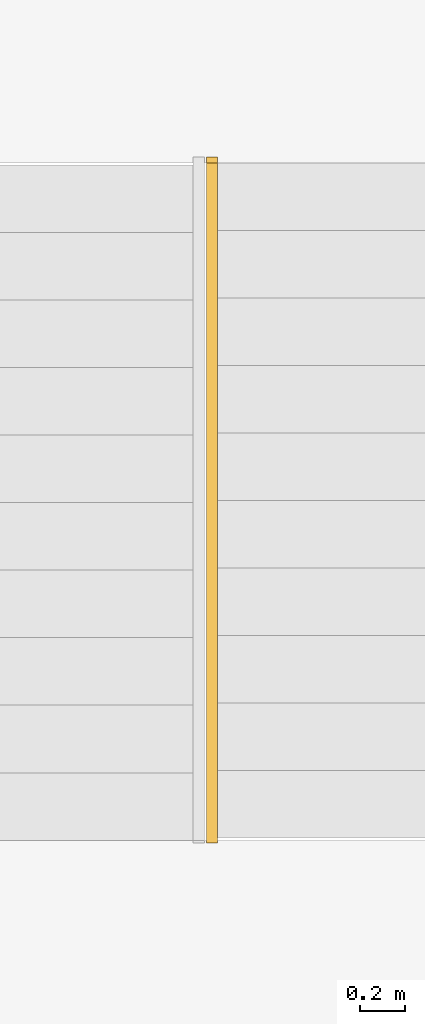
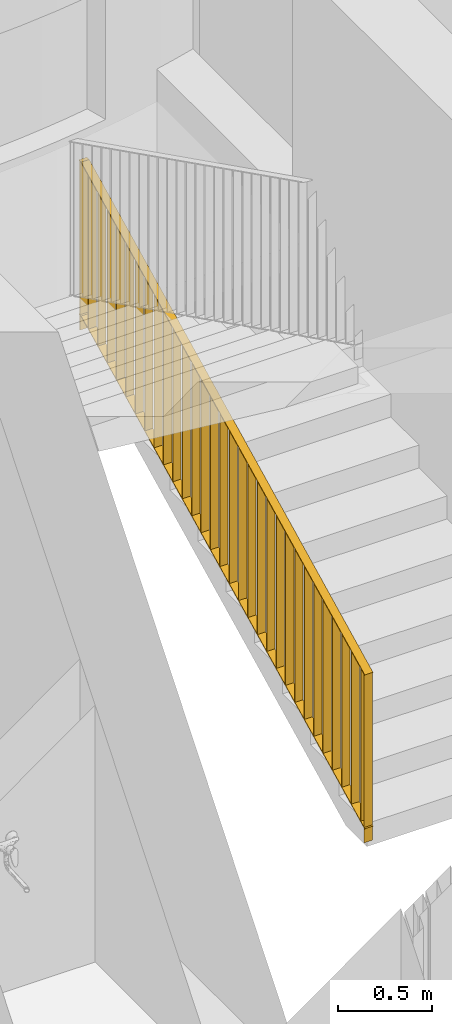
# One storey, part 20 of 48: 1 railing, 1 element without a shape of its own.
"""IFC2X3 building model written with IfcOpenShell, lengths in millimetres."""

from ifc_helpers import new_model, entity, si_unit, converted_unit, derived_unit, direction, frame, origin, place, context, subcontext, project, spatial, faceted_brep, material, element, aggregate, save


model = new_model("IFC2X3")

# Units and contexts
model_context = context("Model", 3, precision=0.01, world=origin(), true_north=direction((6.12303176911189e-17, 1.0)))
body_context = subcontext(model_context, "Body", "Model", "MODEL_VIEW")
ifc_project = project(units=[si_unit("LENGTHUNIT", "METRE", prefix="MILLI"), si_unit("AREAUNIT", "SQUARE_METRE"), si_unit("VOLUMEUNIT", "CUBIC_METRE"), converted_unit("PLANEANGLEUNIT", "DEGREE", entity("IfcRatioMeasure", 0.0174532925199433), si_unit("PLANEANGLEUNIT", "RADIAN"), dimensions=[0, 0, 0, 0, 0, 0, 0]), si_unit("MASSUNIT", "GRAM", prefix="KILO"), derived_unit("MASSDENSITYUNIT", [(si_unit("MASSUNIT", "GRAM", prefix="KILO"), 1), (si_unit("LENGTHUNIT", "METRE"), -3)]), si_unit("TIMEUNIT", "SECOND"), si_unit("FREQUENCYUNIT", "HERTZ"), si_unit("THERMODYNAMICTEMPERATUREUNIT", "DEGREE_CELSIUS"), derived_unit("THERMALTRANSMITTANCEUNIT", [(si_unit("MASSUNIT", "GRAM", prefix="KILO"), 1), (si_unit("THERMODYNAMICTEMPERATUREUNIT", "KELVIN"), -1), (si_unit("TIMEUNIT", "SECOND"), -3)]), derived_unit("VOLUMETRICFLOWRATEUNIT", [(si_unit("LENGTHUNIT", "METRE"), 3), (si_unit("TIMEUNIT", "SECOND"), -1)]), si_unit("ELECTRICCURRENTUNIT", "AMPERE"), si_unit("ELECTRICVOLTAGEUNIT", "VOLT"), si_unit("POWERUNIT", "WATT"), si_unit("FORCEUNIT", "NEWTON", prefix="KILO"), si_unit("ILLUMINANCEUNIT", "LUX"), si_unit("LUMINOUSFLUXUNIT", "LUMEN"), si_unit("LUMINOUSINTENSITYUNIT", "CANDELA"), derived_unit("USERDEFINED", [(si_unit("MASSUNIT", "GRAM", prefix="KILO"), -1), (si_unit("LENGTHUNIT", "METRE"), -2), (si_unit("TIMEUNIT", "SECOND"), 3), (si_unit("LUMINOUSFLUXUNIT", "LUMEN"), 1)]), derived_unit("LINEARVELOCITYUNIT", [(si_unit("LENGTHUNIT", "METRE"), 1), (si_unit("TIMEUNIT", "SECOND"), -1)]), si_unit("PRESSUREUNIT", "PASCAL"), derived_unit("USERDEFINED", [(si_unit("LENGTHUNIT", "METRE"), -2), (si_unit("MASSUNIT", "GRAM", prefix="KILO"), 1), (si_unit("TIMEUNIT", "SECOND"), -2)]), derived_unit("LINEARFORCEUNIT", [(si_unit("MASSUNIT", "GRAM", prefix="KILO"), 1), (si_unit("LENGTHUNIT", "METRE"), 1), (si_unit("TIMEUNIT", "SECOND"), -2), (si_unit("LENGTHUNIT", "METRE"), -1)]), derived_unit("PLANARFORCEUNIT", [(si_unit("MASSUNIT", "GRAM", prefix="KILO"), 1), (si_unit("LENGTHUNIT", "METRE"), 1), (si_unit("TIMEUNIT", "SECOND"), -2), (si_unit("LENGTHUNIT", "METRE"), -2)])], contexts=[model_context])

# Site, building, storey
site_placement = place(None, origin())
site = spatial("IfcSite", under=ifc_project, at=site_placement, Name="Default", CompositionType="ELEMENT")
building_placement = place(site_placement, origin())
building = spatial("IfcBuilding", under=site, at=building_placement, Name="SMA ARH", CompositionType="ELEMENT")
storey_placement = place(building_placement, frame((0.0, 0.0, 3300.0)))
storey = spatial("IfcBuildingStorey", under=building, at=storey_placement, Name="2 Korrus", CompositionType="ELEMENT", Elevation=3299.99999999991)

# Stair, railing
stair_placement = place(storey_placement, origin())
stair = element("IfcStair", 1, at=stair_placement, inside=storey, Name="Cast-In-Place Stair:Stair", ObjectType="Cast-In-Place Stair:Cast-In-Place Stair", ShapeType="STRAIGHT_RUN_STAIR")
ifc_material = material(Name="Metal - Stainless Steel,Polished")
railing_placement = place(stair_placement, frame((10214.5598309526, 9776.29403501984, -28.2030415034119)))
railing = element("IfcRailing", 2, at=railing_placement, material=ifc_material, Name="Railing:1000mm_sisearh railing offsetiga", ObjectType="Railing:1000mm_sisearh railing offsetiga", PredefinedType="NOTDEFINED", context=body_context, shape_type="Brep", body=[
    faceted_brep([(50.4401690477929, 44.6768518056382, 118.475768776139), (50.4401690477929, 49.6768518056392, 120.960617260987), (50.4401690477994, 49.6768518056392, 1115.37720683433), (50.4401690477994, 44.6768518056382, 1112.89235834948), (0.440169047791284, 44.6768518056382, 118.475768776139), (0.440169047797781, 44.6768518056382, 1112.89235834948), (0.440169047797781, 49.6768518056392, 1115.37720683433), (0.440169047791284, 49.6768518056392, 120.960617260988)], [[[0, 1, 2, 3]], [[4, 5, 6, 7]], [[1, 0, 4, 7]], [[2, 1, 7, 6]], [[3, 2, 6, 5]], [[0, 3, 5, 4]]]),
    faceted_brep([(50.4401690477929, 144.676851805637, 168.172738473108), (50.4401690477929, 149.676851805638, 170.657586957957), (50.4401690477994, 149.676851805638, 1165.0741765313), (50.4401690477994, 144.676851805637, 1162.58932804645), (0.440169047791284, 144.676851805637, 168.172738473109), (0.440169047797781, 144.676851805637, 1162.58932804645), (0.440169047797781, 149.676851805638, 1165.0741765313), (0.440169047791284, 149.676851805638, 170.657586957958)], [[[0, 1, 2, 3]], [[4, 5, 6, 7]], [[1, 0, 4, 7]], [[2, 1, 7, 6]], [[3, 2, 6, 5]], [[0, 3, 5, 4]]]),
    faceted_brep([(50.4401690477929, 244.676851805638, 217.869708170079), (50.4401690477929, 249.676851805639, 220.354556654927), (50.4401690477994, 249.676851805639, 1214.77114622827), (50.4401690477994, 244.676851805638, 1212.28629774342), (0.440169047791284, 244.676851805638, 217.869708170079), (0.440169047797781, 244.676851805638, 1212.28629774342), (0.440169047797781, 249.676851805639, 1214.77114622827), (0.440169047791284, 249.676851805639, 220.354556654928)], [[[0, 1, 2, 3]], [[4, 5, 6, 7]], [[1, 0, 4, 7]], [[2, 1, 7, 6]], [[3, 2, 6, 5]], [[0, 3, 5, 4]]]),
    faceted_brep([(50.4401690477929, 344.676851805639, 267.566677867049), (50.4401690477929, 349.67685180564, 270.051526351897), (50.4401690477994, 349.67685180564, 1264.46811592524), (50.4401690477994, 344.676851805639, 1261.98326744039), (0.440169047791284, 344.676851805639, 267.566677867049), (0.440169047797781, 344.676851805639, 1261.98326744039), (0.440169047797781, 349.67685180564, 1264.46811592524), (0.440169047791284, 349.67685180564, 270.051526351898)], [[[0, 1, 2, 3]], [[4, 5, 6, 7]], [[1, 0, 4, 7]], [[2, 1, 7, 6]], [[3, 2, 6, 5]], [[0, 3, 5, 4]]]),
    faceted_brep([(50.4401690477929, 444.676851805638, 317.263647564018), (50.4401690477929, 449.676851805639, 319.748496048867), (50.4401690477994, 449.676851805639, 1314.16508562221), (50.4401690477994, 444.676851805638, 1311.68023713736), (0.440169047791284, 444.676851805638, 317.263647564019), (0.440169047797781, 444.676851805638, 1311.68023713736), (0.440169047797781, 449.676851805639, 1314.16508562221), (0.440169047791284, 449.676851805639, 319.748496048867)], [[[0, 1, 2, 3]], [[4, 5, 6, 7]], [[1, 0, 4, 7]], [[2, 1, 7, 6]], [[3, 2, 6, 5]], [[0, 3, 5, 4]]]),
    faceted_brep([(50.4401690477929, 544.676851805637, 366.960617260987), (50.4401690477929, 549.676851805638, 369.445465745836), (50.4401690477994, 549.676851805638, 1363.86205531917), (50.4401690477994, 544.676851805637, 1361.37720683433), (0.440169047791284, 544.676851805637, 366.960617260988), (0.440169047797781, 544.676851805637, 1361.37720683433), (0.440169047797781, 549.676851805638, 1363.86205531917), (0.440169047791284, 549.676851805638, 369.445465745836)], [[[0, 1, 2, 3]], [[4, 5, 6, 7]], [[1, 0, 4, 7]], [[2, 1, 7, 6]], [[3, 2, 6, 5]], [[0, 3, 5, 4]]]),
    faceted_brep([(50.4401690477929, 644.676851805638, 416.657586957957), (50.4401690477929, 649.676851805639, 419.142435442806), (50.4401690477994, 649.676851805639, 1413.55902501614), (50.4401690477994, 644.676851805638, 1411.0741765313), (0.440169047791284, 644.676851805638, 416.657586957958), (0.440169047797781, 644.676851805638, 1411.0741765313), (0.440169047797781, 649.676851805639, 1413.55902501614), (0.440169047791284, 649.676851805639, 419.142435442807)], [[[0, 1, 2, 3]], [[4, 5, 6, 7]], [[1, 0, 4, 7]], [[2, 1, 7, 6]], [[3, 2, 6, 5]], [[0, 3, 5, 4]]]),
    faceted_brep([(50.4401690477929, 744.676851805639, 466.354556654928), (50.4401690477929, 749.67685180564, 468.839405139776), (50.4401690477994, 749.67685180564, 1463.25599471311), (50.4401690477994, 744.676851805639, 1460.77114622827), (0.440169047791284, 744.676851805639, 466.354556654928), (0.440169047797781, 744.676851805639, 1460.77114622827), (0.440169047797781, 749.67685180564, 1463.25599471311), (0.440169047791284, 749.67685180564, 468.839405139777)], [[[0, 1, 2, 3]], [[4, 5, 6, 7]], [[1, 0, 4, 7]], [[2, 1, 7, 6]], [[3, 2, 6, 5]], [[0, 3, 5, 4]]]),
    faceted_brep([(50.4401690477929, 844.676851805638, 516.051526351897), (50.4401690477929, 849.676851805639, 518.536374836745), (50.4401690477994, 849.676851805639, 1512.95296441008), (50.4401690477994, 844.676851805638, 1510.46811592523), (0.440169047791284, 844.676851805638, 516.051526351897), (0.440169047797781, 844.676851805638, 1510.46811592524), (0.440169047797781, 849.676851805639, 1512.95296441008), (0.440169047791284, 849.676851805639, 518.536374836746)], [[[0, 1, 2, 3]], [[4, 5, 6, 7]], [[1, 0, 4, 7]], [[2, 1, 7, 6]], [[3, 2, 6, 5]], [[0, 3, 5, 4]]]),
    faceted_brep([(50.4401690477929, 944.676851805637, 565.748496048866), (50.4401690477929, 949.676851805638, 568.233344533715), (50.4401690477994, 949.676851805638, 1562.64993410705), (50.4401690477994, 944.676851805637, 1560.1650856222), (0.440169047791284, 944.676851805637, 565.748496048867), (0.440169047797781, 944.676851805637, 1560.1650856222), (0.440169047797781, 949.676851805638, 1562.64993410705), (0.440169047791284, 949.676851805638, 568.233344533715)], [[[0, 1, 2, 3]], [[4, 5, 6, 7]], [[1, 0, 4, 7]], [[2, 1, 7, 6]], [[3, 2, 6, 5]], [[0, 3, 5, 4]]]),
    faceted_brep([(50.4401690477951, 1044.67685180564, 615.445465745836), (50.4401690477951, 1049.67685180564, 617.930314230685), (50.4401690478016, 1049.67685180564, 1612.34690380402), (50.4401690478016, 1044.67685180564, 1609.86205531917), (0.440169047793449, 1044.67685180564, 615.445465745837), (0.440169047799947, 1044.67685180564, 1609.86205531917), (0.440169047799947, 1049.67685180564, 1612.34690380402), (0.440169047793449, 1049.67685180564, 617.930314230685)], [[[0, 1, 2, 3]], [[4, 5, 6, 7]], [[1, 0, 4, 7]], [[2, 1, 7, 6]], [[3, 2, 6, 5]], [[0, 3, 5, 4]]]),
    faceted_brep([(50.4401690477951, 1144.67685180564, 665.142435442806), (50.4401690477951, 1149.67685180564, 667.627283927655), (50.4401690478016, 1149.67685180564, 1662.04387350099), (50.4401690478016, 1144.67685180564, 1659.55902501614), (0.440169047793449, 1144.67685180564, 665.142435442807), (0.440169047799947, 1144.67685180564, 1659.55902501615), (0.440169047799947, 1149.67685180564, 1662.04387350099), (0.440169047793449, 1149.67685180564, 667.627283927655)], [[[0, 1, 2, 3]], [[4, 5, 6, 7]], [[1, 0, 4, 7]], [[2, 1, 7, 6]], [[3, 2, 6, 5]], [[0, 3, 5, 4]]]),
    faceted_brep([(50.4401690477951, 1244.67685180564, 714.839405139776), (50.4401690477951, 1249.67685180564, 717.324253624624), (50.4401690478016, 1249.67685180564, 1711.74084319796), (50.4401690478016, 1244.67685180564, 1709.25599471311), (0.440169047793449, 1244.67685180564, 714.839405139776), (0.440169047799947, 1244.67685180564, 1709.25599471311), (0.440169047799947, 1249.67685180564, 1711.74084319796), (0.440169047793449, 1249.67685180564, 717.324253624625)], [[[0, 1, 2, 3]], [[4, 5, 6, 7]], [[1, 0, 4, 7]], [[2, 1, 7, 6]], [[3, 2, 6, 5]], [[0, 3, 5, 4]]]),
    faceted_brep([(50.4401690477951, 1344.67685180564, 764.536374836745), (50.4401690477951, 1349.67685180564, 767.021223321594), (50.4401690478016, 1349.67685180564, 1761.43781289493), (50.4401690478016, 1344.67685180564, 1758.95296441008), (0.440169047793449, 1344.67685180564, 764.536374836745), (0.440169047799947, 1344.67685180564, 1758.95296441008), (0.440169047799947, 1349.67685180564, 1761.43781289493), (0.440169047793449, 1349.67685180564, 767.021223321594)], [[[0, 1, 2, 3]], [[4, 5, 6, 7]], [[1, 0, 4, 7]], [[2, 1, 7, 6]], [[3, 2, 6, 5]], [[0, 3, 5, 4]]]),
    faceted_brep([(50.4401690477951, 1444.67685180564, 814.233344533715), (50.4401690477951, 1449.67685180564, 816.718193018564), (50.4401690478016, 1449.67685180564, 1811.1347825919), (50.4401690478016, 1444.67685180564, 1808.64993410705), (0.440169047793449, 1444.67685180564, 814.233344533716), (0.440169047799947, 1444.67685180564, 1808.64993410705), (0.440169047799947, 1449.67685180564, 1811.1347825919), (0.440169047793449, 1449.67685180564, 816.718193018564)], [[[0, 1, 2, 3]], [[4, 5, 6, 7]], [[1, 0, 4, 7]], [[2, 1, 7, 6]], [[3, 2, 6, 5]], [[0, 3, 5, 4]]]),
    faceted_brep([(50.4401690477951, 1544.67685180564, 863.930314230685), (50.4401690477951, 1549.67685180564, 866.415162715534), (50.4401690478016, 1549.67685180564, 1860.83175228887), (50.4401690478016, 1544.67685180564, 1858.34690380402), (0.440169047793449, 1544.67685180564, 863.930314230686), (0.440169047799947, 1544.67685180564, 1858.34690380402), (0.440169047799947, 1549.67685180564, 1860.83175228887), (0.440169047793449, 1549.67685180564, 866.415162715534)], [[[0, 1, 2, 3]], [[4, 5, 6, 7]], [[1, 0, 4, 7]], [[2, 1, 7, 6]], [[3, 2, 6, 5]], [[0, 3, 5, 4]]]),
    faceted_brep([(50.4401690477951, 1644.67685180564, 913.627283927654), (50.4401690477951, 1649.67685180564, 916.112132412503), (50.4401690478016, 1649.67685180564, 1910.52872198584), (50.4401690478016, 1644.67685180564, 1908.04387350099), (0.440169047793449, 1644.67685180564, 913.627283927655), (0.440169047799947, 1644.67685180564, 1908.04387350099), (0.440169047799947, 1649.67685180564, 1910.52872198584), (0.440169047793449, 1649.67685180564, 916.112132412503)], [[[0, 1, 2, 3]], [[4, 5, 6, 7]], [[1, 0, 4, 7]], [[2, 1, 7, 6]], [[3, 2, 6, 5]], [[0, 3, 5, 4]]]),
    faceted_brep([(50.4401690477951, 1744.67685180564, 963.324253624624), (50.4401690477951, 1749.67685180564, 965.809102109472), (50.4401690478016, 1749.67685180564, 1960.22569168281), (50.4401690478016, 1744.67685180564, 1957.74084319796), (0.440169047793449, 1744.67685180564, 963.324253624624), (0.440169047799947, 1744.67685180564, 1957.74084319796), (0.440169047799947, 1749.67685180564, 1960.22569168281), (0.440169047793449, 1749.67685180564, 965.809102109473)], [[[0, 1, 2, 3]], [[4, 5, 6, 7]], [[1, 0, 4, 7]], [[2, 1, 7, 6]], [[3, 2, 6, 5]], [[0, 3, 5, 4]]]),
    faceted_brep([(50.4401690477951, 1844.67685180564, 1013.02122332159), (50.4401690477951, 1849.67685180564, 1015.50607180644), (50.4401690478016, 1849.67685180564, 2009.92266137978), (50.4401690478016, 1844.67685180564, 2007.43781289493), (0.440169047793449, 1844.67685180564, 1013.02122332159), (0.440169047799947, 1844.67685180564, 2007.43781289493), (0.440169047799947, 1849.67685180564, 2009.92266137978), (0.440169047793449, 1849.67685180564, 1015.50607180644)], [[[0, 1, 2, 3]], [[4, 5, 6, 7]], [[1, 0, 4, 7]], [[2, 1, 7, 6]], [[3, 2, 6, 5]], [[0, 3, 5, 4]]]),
    faceted_brep([(50.4401690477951, 1944.67685180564, 1062.71819301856), (50.4401690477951, 1949.67685180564, 1065.20304150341), (50.4401690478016, 1949.67685180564, 2059.61963107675), (50.4401690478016, 1944.67685180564, 2057.1347825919), (0.440169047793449, 1944.67685180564, 1062.71819301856), (0.440169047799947, 1944.67685180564, 2057.1347825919), (0.440169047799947, 1949.67685180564, 2059.61963107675), (0.440169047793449, 1949.67685180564, 1065.20304150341)], [[[0, 1, 2, 3]], [[4, 5, 6, 7]], [[1, 0, 4, 7]], [[2, 1, 7, 6]], [[3, 2, 6, 5]], [[0, 3, 5, 4]]]),
    faceted_brep([(50.4401690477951, 2044.67685180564, 1112.41516271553), (50.4401690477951, 2049.67685180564, 1114.90001120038), (50.4401690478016, 2049.67685180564, 2109.31660077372), (50.4401690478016, 2044.67685180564, 2106.83175228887), (0.440169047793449, 2044.67685180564, 1112.41516271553), (0.440169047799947, 2044.67685180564, 2106.83175228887), (0.440169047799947, 2049.67685180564, 2109.31660077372), (0.440169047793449, 2049.67685180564, 1114.90001120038)], [[[0, 1, 2, 3]], [[4, 5, 6, 7]], [[1, 0, 4, 7]], [[2, 1, 7, 6]], [[3, 2, 6, 5]], [[0, 3, 5, 4]]]),
    faceted_brep([(50.4401690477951, 2144.67685180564, 1162.1121324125), (50.4401690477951, 2149.67685180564, 1164.59698089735), (50.4401690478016, 2149.67685180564, 2159.01357047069), (50.4401690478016, 2144.67685180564, 2156.52872198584), (0.440169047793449, 2144.67685180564, 1162.1121324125), (0.440169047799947, 2144.67685180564, 2156.52872198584), (0.440169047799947, 2149.67685180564, 2159.01357047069), (0.440169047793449, 2149.67685180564, 1164.59698089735)], [[[0, 1, 2, 3]], [[4, 5, 6, 7]], [[1, 0, 4, 7]], [[2, 1, 7, 6]], [[3, 2, 6, 5]], [[0, 3, 5, 4]]]),
    faceted_brep([(50.4401690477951, 2244.67685180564, 1211.80910210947), (50.4401690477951, 2249.67685180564, 1214.29395059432), (50.4401690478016, 2249.67685180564, 2208.71054016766), (50.4401690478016, 2244.67685180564, 2206.22569168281), (0.440169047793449, 2244.67685180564, 1211.80910210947), (0.440169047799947, 2244.67685180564, 2206.22569168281), (0.440169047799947, 2249.67685180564, 2208.71054016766), (0.440169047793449, 2249.67685180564, 1214.29395059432)], [[[0, 1, 2, 3]], [[4, 5, 6, 7]], [[1, 0, 4, 7]], [[2, 1, 7, 6]], [[3, 2, 6, 5]], [[0, 3, 5, 4]]]),
    faceted_brep([(50.4401690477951, 2344.67685180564, 1261.50607180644), (50.4401690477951, 2349.67685180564, 1263.99092029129), (50.4401690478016, 2349.67685180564, 2258.40750986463), (50.4401690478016, 2344.67685180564, 2255.92266137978), (0.440169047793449, 2344.67685180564, 1261.50607180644), (0.440169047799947, 2344.67685180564, 2255.92266137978), (0.440169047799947, 2349.67685180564, 2258.40750986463), (0.440169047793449, 2349.67685180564, 1263.99092029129)], [[[0, 1, 2, 3]], [[4, 5, 6, 7]], [[1, 0, 4, 7]], [[2, 1, 7, 6]], [[3, 2, 6, 5]], [[0, 3, 5, 4]]]),
    faceted_brep([(50.4401690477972, 2444.67685180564, 1311.20304150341), (50.4401690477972, 2449.67685180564, 1313.68788998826), (50.4401690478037, 2449.67685180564, 2308.1044795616), (50.4401690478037, 2444.67685180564, 2305.61963107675), (0.440169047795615, 2444.67685180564, 1311.20304150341), (0.440169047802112, 2444.67685180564, 2305.61963107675), (0.440169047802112, 2449.67685180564, 2308.1044795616), (0.440169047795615, 2449.67685180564, 1313.68788998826)], [[[0, 1, 2, 3]], [[4, 5, 6, 7]], [[1, 0, 4, 7]], [[2, 1, 7, 6]], [[3, 2, 6, 5]], [[0, 3, 5, 4]]]),
    faceted_brep([(50.4401690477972, 2544.67685180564, 1360.90001120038), (50.4401690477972, 2549.67685180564, 1363.38485968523), (50.4401690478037, 2549.67685180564, 2357.80144925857), (50.4401690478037, 2544.67685180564, 2355.31660077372), (0.440169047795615, 2544.67685180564, 1360.90001120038), (0.440169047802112, 2544.67685180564, 2355.31660077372), (0.440169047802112, 2549.67685180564, 2357.80144925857), (0.440169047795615, 2549.67685180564, 1363.38485968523)], [[[0, 1, 2, 3]], [[4, 5, 6, 7]], [[1, 0, 4, 7]], [[2, 1, 7, 6]], [[3, 2, 6, 5]], [[0, 3, 5, 4]]]),
    faceted_brep([(50.4401690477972, 2644.67685180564, 1410.59698089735), (50.4401690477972, 2649.67685180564, 1413.0818293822), (50.4401690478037, 2649.67685180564, 2407.49841895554), (50.4401690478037, 2644.67685180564, 2405.01357047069), (0.440169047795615, 2644.67685180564, 1410.59698089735), (0.440169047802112, 2644.67685180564, 2405.01357047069), (0.440169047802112, 2649.67685180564, 2407.49841895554), (0.440169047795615, 2649.67685180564, 1413.0818293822)], [[[0, 1, 2, 3]], [[4, 5, 6, 7]], [[1, 0, 4, 7]], [[2, 1, 7, 6]], [[3, 2, 6, 5]], [[0, 3, 5, 4]]]),
    faceted_brep([(50.4401690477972, 2744.67685180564, 1460.29395059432), (50.4401690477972, 2749.67685180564, 1462.77879907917), (50.4401690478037, 2749.67685180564, 2457.19538865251), (50.4401690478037, 2744.67685180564, 2454.71054016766), (0.440169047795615, 2744.67685180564, 1460.29395059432), (0.440169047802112, 2744.67685180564, 2454.71054016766), (0.440169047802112, 2749.67685180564, 2457.19538865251), (0.440169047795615, 2749.67685180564, 1462.77879907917)], [[[0, 1, 2, 3]], [[4, 5, 6, 7]], [[1, 0, 4, 7]], [[2, 1, 7, 6]], [[3, 2, 6, 5]], [[0, 3, 5, 4]]]),
    faceted_brep([(50.4401690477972, 2844.67685180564, 1509.99092029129), (50.4401690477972, 2849.67685180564, 1512.47576877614), (50.4401690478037, 2849.67685180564, 2506.89235834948), (50.4401690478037, 2844.67685180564, 2504.40750986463), (0.440169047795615, 2844.67685180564, 1509.99092029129), (0.440169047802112, 2844.67685180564, 2504.40750986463), (0.440169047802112, 2849.67685180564, 2506.89235834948), (0.440169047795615, 2849.67685180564, 1512.47576877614)], [[[0, 1, 2, 3]], [[4, 5, 6, 7]], [[1, 0, 4, 7]], [[2, 1, 7, 6]], [[3, 2, 6, 5]], [[0, 3, 5, 4]]]),
    faceted_brep([(50.4401690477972, 2944.67685180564, 1559.68788998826), (50.4401690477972, 2949.67685180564, 1562.17273847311), (50.4401690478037, 2949.67685180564, 2556.58932804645), (50.4401690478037, 2944.67685180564, 2554.1044795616), (0.440169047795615, 2944.67685180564, 1559.68788998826), (0.440169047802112, 2944.67685180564, 2554.1044795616), (0.440169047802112, 2949.67685180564, 2556.58932804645), (0.440169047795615, 2949.67685180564, 1562.17273847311)], [[[0, 1, 2, 3]], [[4, 5, 6, 7]], [[1, 0, 4, 7]], [[2, 1, 7, 6]], [[3, 2, 6, 5]], [[0, 3, 5, 4]]]),
    faceted_brep([(50.4401690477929, 7.4999999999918, 0.0), (50.4401690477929, 12.4999999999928, 2.48484848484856), (50.4401690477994, 12.4999999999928, 1096.90143805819), (50.4401690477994, 7.4999999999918, 1094.41658957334), (0.440169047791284, 7.4999999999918, 0.0), (0.440169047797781, 7.49999999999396, 1094.41658957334), (0.440169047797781, 12.4999999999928, 1096.90143805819), (0.440169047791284, 12.4999999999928, 2.4848484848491)], [[[0, 1, 2, 3]], [[4, 5, 6, 7]], [[1, 0, 4, 7]], [[2, 1, 7, 6]], [[3, 2, 6, 5]], [[0, 3, 5, 4]]]),
    faceted_brep([(50.4401690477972, 3034.67685180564, 1498.20304150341), (50.4401690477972, 3039.67685180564, 1498.20304150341), (50.4401690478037, 3039.67685180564, 2593.20304150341), (50.4401690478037, 3034.67685180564, 2593.20304150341), (0.440169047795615, 3034.67685180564, 1498.20304150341), (0.440169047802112, 3034.67685180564, 2593.20304150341), (0.440169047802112, 3039.67685180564, 2593.20304150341), (0.440169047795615, 3039.67685180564, 1498.20304150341)], [[[0, 1, 2, 3]], [[4, 5, 6, 7]], [[1, 0, 4, 7]], [[2, 1, 7, 6]], [[3, 2, 6, 5]], [[0, 3, 5, 4]]]),
    faceted_brep([(50.0, 3047.17685180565, 1598.20304150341), (50.0, 3047.17685180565, 1593.20304150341), (0.0, 3047.17685180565, 1593.20304150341), (0.0, 3047.17685180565, 1598.20304150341), (50.0, 0.0, 96.2727272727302), (0.0, 0.0, 96.2727272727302), (0.0, 0.0, 90.68931684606), (50.0, 0.0, 90.68931684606), (50.0, 3022.17685180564, 1598.20304150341), (50.0, 3023.35078742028, 1593.20304150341), (0.0, 3023.35078742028, 1593.20304150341), (0.0, 3022.17685180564, 1598.20304150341)], [[[0, 1, 2, 3]], [[4, 5, 6, 7]], [[1, 0, 8, 9]], [[2, 1, 9, 10]], [[3, 2, 10, 11]], [[0, 3, 11, 8]], [[9, 8, 4, 7]], [[10, 9, 7, 6]], [[11, 10, 6, 5]], [[8, 11, 5, 4]]]),
    faceted_brep([(50.0, 0.0, 1096.27272727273), (0.0, 0.0, 1096.27272727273), (0.0, 0.0, 1090.68931684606), (50.0, 0.0, 1090.68931684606), (50.0, 3022.17685180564, 2598.20304150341), (0.0, 3022.17685180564, 2598.20304150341), (0.0, 3023.35078742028, 2593.20304150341), (50.0, 3023.35078742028, 2593.20304150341), (50.0, 3047.17685180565, 2598.20304150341), (50.0, 3047.17685180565, 2593.20304150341), (0.0, 3047.17685180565, 2593.20304150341), (0.0, 3047.17685180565, 2598.20304150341)], [[[0, 1, 2, 3]], [[1, 0, 4, 5]], [[2, 1, 5, 6]], [[3, 2, 6, 7]], [[0, 3, 7, 4]], [[8, 9, 10, 11]], [[5, 4, 8, 11]], [[6, 5, 11, 10]], [[7, 6, 10, 9]], [[4, 7, 9, 8]]]),
])
aggregate(stair, [railing])

save(model, "model.ifc")
